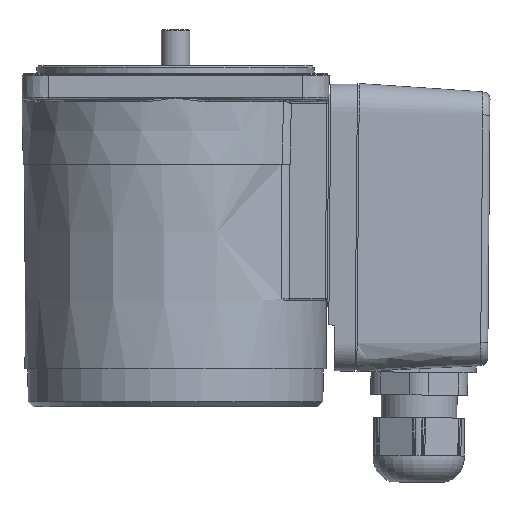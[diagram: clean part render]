
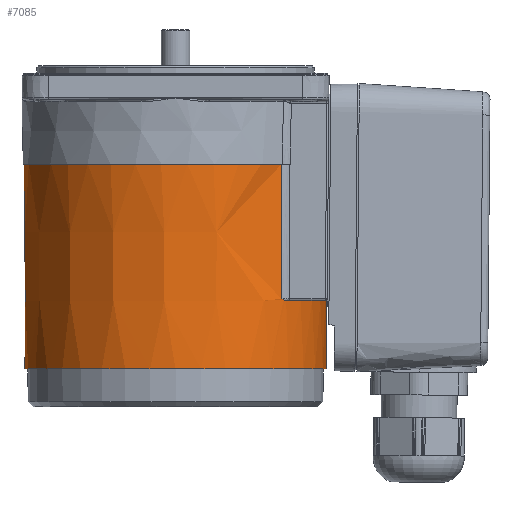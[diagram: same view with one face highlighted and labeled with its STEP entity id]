
A CAD part, left-side view. The second image highlights one B-rep face of the part: STEP entity #7085.
In plain terms, the highlighted conical face has half-angle 0.318 degrees and reference radius 40.05 mm.
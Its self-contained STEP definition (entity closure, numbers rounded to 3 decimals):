
#54 = CARTESIAN_POINT ( 'NONE',  ( -28.667, -27.968, -23.5 ) ) ;
#224 = CARTESIAN_POINT ( 'NONE',  ( 28.415, -27.987, -53.499 ) ) ;
#249 = B_SPLINE_CURVE_WITH_KNOTS ( 'NONE', 3,
 ( #9433, #2152, #6583, #9491, #11342, #2956, #11405, #4748, #1982, #54 ),
 .UNSPECIFIED., .F., .F.,
 ( 4, 3, 3, 4 ),
 ( 0., 0.006, 0.03, 0.036 ),
 .UNSPECIFIED. ) ;
#279 = CARTESIAN_POINT ( 'NONE',  ( 28.369, -27.99, -59.003 ) ) ;
#614 = CARTESIAN_POINT ( 'NONE',  ( -27.343, -28.99, -59.481 ) ) ;
#658 = ORIENTED_EDGE ( 'NONE', *, *, #11520, .T. ) ;
#704 = VERTEX_POINT ( 'NONE', #3384 ) ;
#725 = CARTESIAN_POINT ( 'NONE',  ( 27.343, -28.99, -59.481 ) ) ;
#727 = CARTESIAN_POINT ( 'NONE',  ( 0., 0., -77.5 ) ) ;
#734 = DIRECTION ( 'NONE',  ( 1., 0., 0. ) ) ;
#764 = CIRCLE ( 'NONE', #2528, 39.85 ) ;
#819 = CARTESIAN_POINT ( 'NONE',  ( 0., 0., -59.5 ) ) ;
#822 = CARTESIAN_POINT ( 'NONE',  ( -1.802, -39.82, -59.378 ) ) ;
#879 = CARTESIAN_POINT ( 'NONE',  ( -3.594, -39.698, -59.458 ) ) ;
#1031 = CARTESIAN_POINT ( 'NONE',  ( -39.75, 0., -77.5 ) ) ;
#1035 = ORIENTED_EDGE ( 'NONE', *, *, #9569, .T. ) ;
#1066 = AXIS2_PLACEMENT_3D ( 'NONE', #7188, #3566, #734 ) ;
#1233 = ORIENTED_EDGE ( 'NONE', *, *, #11141, .T. ) ;
#1313 = AXIS2_PLACEMENT_3D ( 'NONE', #727, #9231, #5354 ) ;
#1364 = CIRCLE ( 'NONE', #9435, 40.05 ) ;
#1396 = CARTESIAN_POINT ( 'NONE',  ( 28.667, -27.968, -23.5 ) ) ;
#1474 = CARTESIAN_POINT ( 'NONE',  ( 27.974, -28.384, -59.239 ) ) ;
#1492 = ORIENTED_EDGE ( 'NONE', *, *, #8505, .T. ) ;
#1674 = DIRECTION ( 'NONE',  ( 0., 0., -1. ) ) ;
#1982 = CARTESIAN_POINT ( 'NONE',  ( -28.65, -27.969, -25.5 ) ) ;
#2152 = CARTESIAN_POINT ( 'NONE',  ( -28.384, -27.989, -57.169 ) ) ;
#2257 = CARTESIAN_POINT ( 'NONE',  ( 28.616, -27.972, -29.5 ) ) ;
#2329 = EDGE_LOOP ( 'NONE', ( #6013, #1492, #1233, #658, #5115, #7764, #1035, #9239 ) ) ;
#2528 = AXIS2_PLACEMENT_3D ( 'NONE', #5526, #9217, #10316 ) ;
#2545 = DIRECTION ( 'NONE',  ( -1., 0., 0. ) ) ;
#2613 = DIRECTION ( 'NONE',  ( -1., 0., 0. ) ) ;
#2726 = CARTESIAN_POINT ( 'NONE',  ( 4.487, -39.607, -59.5 ) ) ;
#2738 = CARTESIAN_POINT ( 'NONE',  ( 0., 0., -23.5 ) ) ;
#2819 = VERTEX_POINT ( 'NONE', #9155 ) ;
#2956 = CARTESIAN_POINT ( 'NONE',  ( -28.549, -27.977, -37.501 ) ) ;
#2998 = VERTEX_POINT ( 'NONE', #11732 ) ;
#3207 = CARTESIAN_POINT ( 'NONE',  ( 28.667, -27.968, -23.5 ) ) ;
#3237 = CARTESIAN_POINT ( 'NONE',  ( 28.384, -27.989, -57.168 ) ) ;
#3319 = FACE_BOUND ( 'NONE', #10555, .T. ) ;
#3384 = CARTESIAN_POINT ( 'NONE',  ( -5.38, -39.485, -59.5 ) ) ;
#3388 = ORIENTED_EDGE ( 'NONE', *, *, #5731, .F. ) ;
#3437 = FACE_OUTER_BOUND ( 'NONE', #2329, .T. ) ;
#3566 = DIRECTION ( 'NONE',  ( 0., 0., 1. ) ) ;
#3676 = CARTESIAN_POINT ( 'NONE',  ( 28.369, -27.99, -59.003 ) ) ;
#3783 = VERTEX_POINT ( 'NONE', #8620 ) ;
#3933 = CARTESIAN_POINT ( 'NONE',  ( 28.482, -27.982, -45.499 ) ) ;
#3965 = EDGE_CURVE ( 'NONE', #3783, #7699, #1364, .T. ) ;
#4087 = VERTEX_POINT ( 'NONE', #1031 ) ;
#4180 = CARTESIAN_POINT ( 'NONE',  ( -28.369, -27.99, -59.003 ) ) ;
#4372 = CARTESIAN_POINT ( 'NONE',  ( -27.558, -28.786, -59.421 ) ) ;
#4523 = CARTESIAN_POINT ( 'NONE',  ( 3.591, -39.698, -59.458 ) ) ;
#4748 = CARTESIAN_POINT ( 'NONE',  ( -28.633, -27.971, -27.501 ) ) ;
#4917 = VERTEX_POINT ( 'NONE', #11923 ) ;
#5115 = ORIENTED_EDGE ( 'NONE', *, *, #6234, .T. ) ;
#5156 = EDGE_CURVE ( 'NONE', #704, #5237, #12131, .T. ) ;
#5237 = VERTEX_POINT ( 'NONE', #5508 ) ;
#5354 = DIRECTION ( 'NONE',  ( -1., 0., 0. ) ) ;
#5508 = CARTESIAN_POINT ( 'NONE',  ( -27.122, -29.196, -59.5 ) ) ;
#5526 = CARTESIAN_POINT ( 'NONE',  ( 0., 0., -59.5 ) ) ;
#5568 = CARTESIAN_POINT ( 'NONE',  ( 0.896, -39.851, -59.341 ) ) ;
#5731 = EDGE_CURVE ( 'NONE', #4087, #4087, #7411, .T. ) ;
#6012 = CARTESIAN_POINT ( 'NONE',  ( 28.4, -27.988, -55.334 ) ) ;
#6013 = ORIENTED_EDGE ( 'NONE', *, *, #3965, .T. ) ;
#6234 = EDGE_CURVE ( 'NONE', #2998, #704, #11585, .T. ) ;
#6456 = EDGE_CURVE ( 'NONE', #6694, #3783, #249, .T. ) ;
#6507 = CARTESIAN_POINT ( 'NONE',  ( 27.558, -28.786, -59.421 ) ) ;
#6562 = CARTESIAN_POINT ( 'NONE',  ( 27.663, -28.685, -59.381 ) ) ;
#6583 = CARTESIAN_POINT ( 'NONE',  ( -28.4, -27.988, -55.334 ) ) ;
#6694 = VERTEX_POINT ( 'NONE', #4180 ) ;
#6931 = CARTESIAN_POINT ( 'NONE',  ( 28.633, -27.971, -27.5 ) ) ;
#6956 = B_SPLINE_CURVE_WITH_KNOTS ( 'NONE', 3,
 ( #9245, #10969, #614, #4372, #8309, #12072, #8121, #11035 ),
 .UNSPECIFIED., .F., .F.,
 ( 4, 2, 2, 4 ),
 ( 0., 0., 0.001, 0.002 ),
 .UNSPECIFIED. ) ;
#7085 = ADVANCED_FACE ( 'NONE', ( #3319, #3437 ), #11297, .T. ) ;
#7188 = CARTESIAN_POINT ( 'NONE',  ( 0., 0., -23.5 ) ) ;
#7342 = DIRECTION ( 'NONE',  ( 0., 0., -1. ) ) ;
#7411 = CIRCLE ( 'NONE', #1313, 39.75 ) ;
#7602 = AXIS2_PLACEMENT_3D ( 'NONE', #819, #1674, #2545 ) ;
#7699 = VERTEX_POINT ( 'NONE', #3207 ) ;
#7764 = ORIENTED_EDGE ( 'NONE', *, *, #5156, .T. ) ;
#7924 = CARTESIAN_POINT ( 'NONE',  ( 28.65, -27.969, -25.5 ) ) ;
#8121 = CARTESIAN_POINT ( 'NONE',  ( -28.173, -28.187, -59.12 ) ) ;
#8309 = CARTESIAN_POINT ( 'NONE',  ( -27.663, -28.685, -59.381 ) ) ;
#8326 = CARTESIAN_POINT ( 'NONE',  ( -5.38, -39.485, -59.5 ) ) ;
#8388 = CARTESIAN_POINT ( 'NONE',  ( -0.905, -39.851, -59.341 ) ) ;
#8424 = B_SPLINE_CURVE_WITH_KNOTS ( 'NONE', 3,
 ( #1396, #7924, #6931, #2257, #9658, #3933, #224, #6012, #3237, #279 ),
 .UNSPECIFIED., .F., .F.,
 ( 4, 3, 3, 4 ),
 ( 0., 0.006, 0.03, 0.036 ),
 .UNSPECIFIED. ) ;
#8505 = EDGE_CURVE ( 'NONE', #7699, #2819, #8424, .T. ) ;
#8620 = CARTESIAN_POINT ( 'NONE',  ( -28.667, -27.968, -23.5 ) ) ;
#9126 = B_SPLINE_CURVE_WITH_KNOTS ( 'NONE', 3,
 ( #3676, #11260, #1474, #6562, #6507, #725, #10332, #10270 ),
 .UNSPECIFIED., .F., .F.,
 ( 4, 2, 2, 4 ),
 ( 0., 0.001, 0.001, 0.002 ),
 .UNSPECIFIED. ) ;
#9155 = CARTESIAN_POINT ( 'NONE',  ( 28.369, -27.99, -59.003 ) ) ;
#9217 = DIRECTION ( 'NONE',  ( 0., 0., -1. ) ) ;
#9231 = DIRECTION ( 'NONE',  ( 0., 0., -1. ) ) ;
#9239 = ORIENTED_EDGE ( 'NONE', *, *, #6456, .T. ) ;
#9245 = CARTESIAN_POINT ( 'NONE',  ( -27.122, -29.196, -59.5 ) ) ;
#9262 = CARTESIAN_POINT ( 'NONE',  ( 5.38, -39.485, -59.5 ) ) ;
#9320 = CARTESIAN_POINT ( 'NONE',  ( 1.797, -39.82, -59.378 ) ) ;
#9433 = CARTESIAN_POINT ( 'NONE',  ( -28.369, -27.99, -59.003 ) ) ;
#9435 = AXIS2_PLACEMENT_3D ( 'NONE', #2738, #7342, #2613 ) ;
#9491 = CARTESIAN_POINT ( 'NONE',  ( -28.415, -27.987, -53.5 ) ) ;
#9569 = EDGE_CURVE ( 'NONE', #5237, #6694, #6956, .T. ) ;
#9658 = CARTESIAN_POINT ( 'NONE',  ( 28.549, -27.977, -37.5 ) ) ;
#10270 = CARTESIAN_POINT ( 'NONE',  ( 27.122, -29.196, -59.5 ) ) ;
#10316 = DIRECTION ( 'NONE',  ( -1., 0., 0. ) ) ;
#10332 = CARTESIAN_POINT ( 'NONE',  ( 27.234, -29.092, -59.5 ) ) ;
#10555 = EDGE_LOOP ( 'NONE', ( #3388 ) ) ;
#10969 = CARTESIAN_POINT ( 'NONE',  ( -27.234, -29.092, -59.5 ) ) ;
#11035 = CARTESIAN_POINT ( 'NONE',  ( -28.369, -27.99, -59.003 ) ) ;
#11141 = EDGE_CURVE ( 'NONE', #2819, #4917, #9126, .T. ) ;
#11260 = CARTESIAN_POINT ( 'NONE',  ( 28.173, -28.188, -59.121 ) ) ;
#11289 = CARTESIAN_POINT ( 'NONE',  ( -4.488, -39.607, -59.5 ) ) ;
#11297 = CONICAL_SURFACE ( 'NONE', #1066, 40.05, 0.006 ) ;
#11342 = CARTESIAN_POINT ( 'NONE',  ( -28.482, -27.982, -45.5 ) ) ;
#11405 = CARTESIAN_POINT ( 'NONE',  ( -28.616, -27.972, -29.501 ) ) ;
#11520 = EDGE_CURVE ( 'NONE', #4917, #2998, #764, .T. ) ;
#11585 = B_SPLINE_CURVE_WITH_KNOTS ( 'NONE', 3,
 ( #9262, #2726, #4523, #9320, #5568, #8388, #822, #879, #11289, #8326 ),
 .UNSPECIFIED., .F., .F.,
 ( 4, 2, 2, 2, 4 ),
 ( 0., 0.003, 0.005, 0.008, 0.011 ),
 .UNSPECIFIED. ) ;
#11732 = CARTESIAN_POINT ( 'NONE',  ( 5.38, -39.485, -59.5 ) ) ;
#11923 = CARTESIAN_POINT ( 'NONE',  ( 27.122, -29.196, -59.5 ) ) ;
#12072 = CARTESIAN_POINT ( 'NONE',  ( -27.974, -28.384, -59.239 ) ) ;
#12131 = CIRCLE ( 'NONE', #7602, 39.85 ) ;
